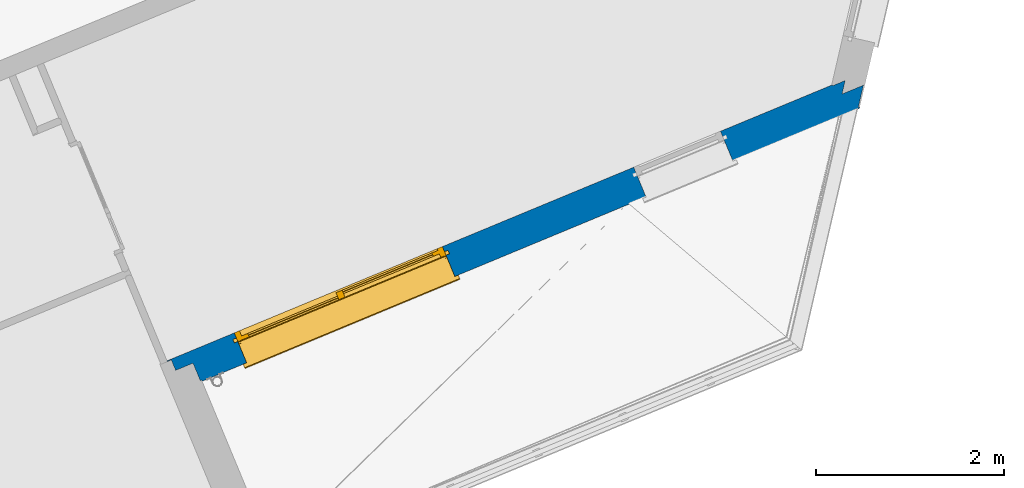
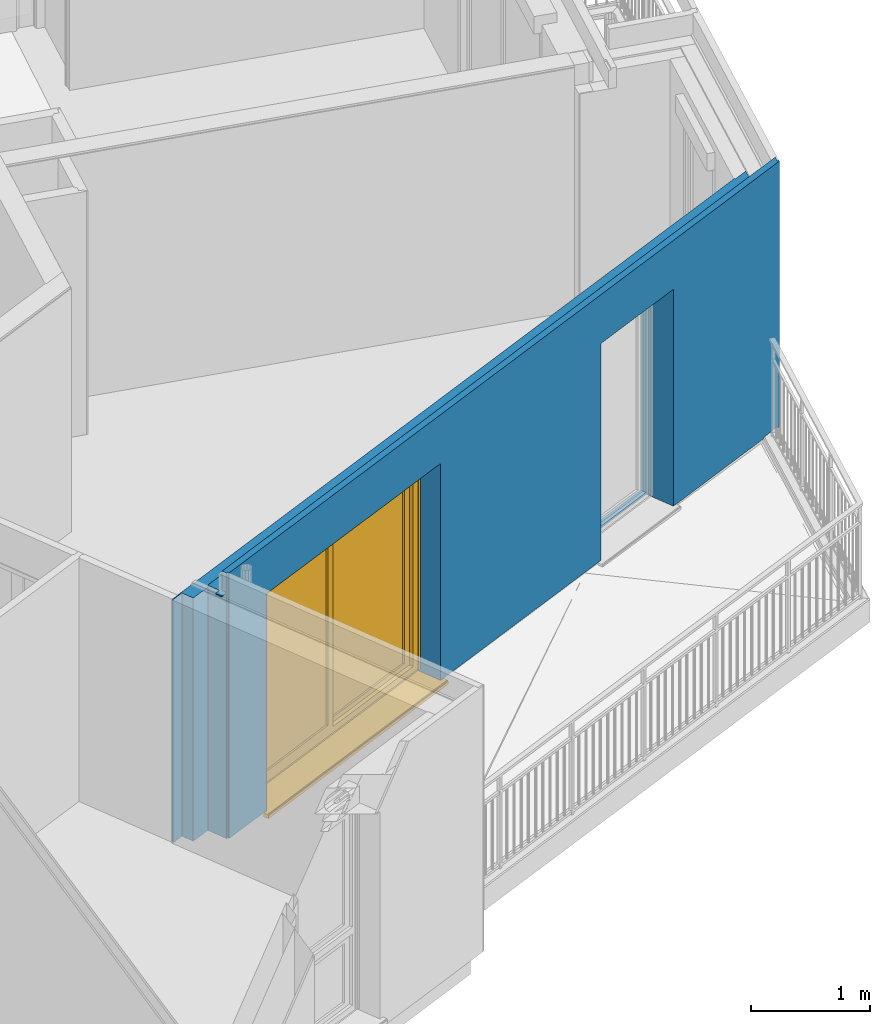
# One storey, part 12 of 91: 1 wall, 1 window, 2 openings.
"""IFC2X3 building model written with IfcOpenShell, lengths in metres."""

import ifcopenshell
import ifcopenshell.guid

model = None  # the IFC model being written
_history = None  # IfcOwnerHistory: only IFC2X3 demands one
_inside = {}  # id of a spatial element -> (the spatial element, [elements in it])
_under = {}  # id of a project, library or spatial element -> (it, [spatial elements below it])
_declared = {}  # id of a project -> (the project, [libraries it declares])
_typed = {}  # id of a type object -> (the type object, [elements of that type])
_made_of = {}  # id of a material, layer set ... -> (it, [elements and type objects made of it])


def new_model(schema):
    """Start an empty IFC model of exactly this schema.

    Asked for "IFC4X3", IfcOpenShell would pick the latest addendum, in which some entities
    have other attributes; the version numbers below select the first issue.
    IFC2X3 requires an IfcOwnerHistory on every rooted entity: one is made here for all.
    """
    global model, _history
    if schema == "IFC4X3":
        model = ifcopenshell.file(schema_version=(4, 3, 0, 0))
    else:
        model = ifcopenshell.file(schema=schema)
    _inside.clear()
    _under.clear()
    _declared.clear()
    _typed.clear()
    _made_of.clear()
    _history = None
    if model.schema == "IFC2X3":
        org = make("IfcOrganization", Name="unknown")
        user = make(
            "IfcPersonAndOrganization",
            ThePerson=make("IfcPerson", FamilyName="unknown"),
            TheOrganization=org,
        )
        app = make(
            "IfcApplication",
            ApplicationDeveloper=org,
            Version="unknown",
            ApplicationFullName="unknown",
            ApplicationIdentifier="unknown",
        )
        _history = make(
            "IfcOwnerHistory",
            OwningUser=user,
            OwningApplication=app,
            ChangeAction="ADDED",
            CreationDate=0,
        )
    return model


def make(cls, **values):
    """One entity of the class cls with the attributes given. An attribute that is None is left unset."""
    return model.create_entity(
        cls, **{name: value for name, value in values.items() if value is not None}
    )


def entity(cls, *values):
    """Any entity or typed value of the class cls, its attributes in the order of the schema. None: left unset."""
    e = model.create_entity(cls)
    for i, value in enumerate(values):
        if value is not None:
            e[i] = value
    return e


def rooted(cls, **values):
    """An entity with a GlobalId (a new one), such as an element, a storey or a relation."""
    return make(cls, GlobalId=ifcopenshell.guid.new(), OwnerHistory=_history, **values)


def si_unit(unit_type, name, prefix=None):
    """IfcSIUnit, for example si_unit("LENGTHUNIT", "METRE", prefix="MILLI")."""
    return make("IfcSIUnit", UnitType=unit_type, Prefix=prefix, Name=name)


def converted_unit(unit_type, name, factor, base, dimensions=None, offset=None):
    """IfcConversionBasedUnit, such as the inch: factor (a typed value) times the base unit."""
    return make(
        "IfcConversionBasedUnit"
        if offset is None
        else "IfcConversionBasedUnitWithOffset",
        ConversionOffset=offset,
        Dimensions=None
        if dimensions is None
        else entity("IfcDimensionalExponents", *dimensions),
        UnitType=unit_type,
        Name=name,
        ConversionFactor=make(
            "IfcMeasureWithUnit", ValueComponent=factor, UnitComponent=base
        ),
    )


def derived_unit(unit_type, elements):
    """IfcDerivedUnit: a product of units, each with its exponent."""
    return make(
        "IfcDerivedUnit",
        Elements=[
            make("IfcDerivedUnitElement", Unit=unit, Exponent=power)
            for unit, power in elements
        ],
        UnitType=unit_type,
    )


def money_unit(currency):
    """IfcMonetaryUnit."""
    return make("IfcMonetaryUnit", Currency=currency)


def assignment(units):
    """IfcUnitAssignment: the units of a project."""
    return None if units is None else make("IfcUnitAssignment", Units=units)


def point(xyz):
    """IfcCartesianPoint."""
    return None if xyz is None else make("IfcCartesianPoint", Coordinates=xyz)


def direction(xyz):
    """IfcDirection."""
    return None if xyz is None else make("IfcDirection", DirectionRatios=xyz)


def frame(location, z_axis=None, x_axis=None):
    """IfcAxis2Placement3D, a coordinate frame: its origin and axes. An axis left out is left unset."""
    return make(
        "IfcAxis2Placement3D",
        Location=point(location),
        Axis=direction(z_axis),
        RefDirection=direction(x_axis),
    )


def origin_with_axes():
    """The frame at (0, 0, 0) with the z axis (0, 0, 1) and the x axis (1, 0, 0) written out."""
    return frame((0.0, 0.0, 0.0), z_axis=(0.0, 0.0, 1.0), x_axis=(1.0, 0.0, 0.0))


def place(relative_to, where):
    """IfcLocalPlacement: puts the frame where relative to a parent placement (None: the world)."""
    return make(
        "IfcLocalPlacement", PlacementRelTo=relative_to, RelativePlacement=where
    )


def context(
    kind, dimensions, precision=None, world=None, true_north=None, identifier=None
):
    """IfcGeometricRepresentationContext, for example the 3D "Model" context."""
    return make(
        "IfcGeometricRepresentationContext",
        ContextIdentifier=identifier,
        ContextType=kind,
        CoordinateSpaceDimension=dimensions,
        Precision=precision,
        WorldCoordinateSystem=world,
        TrueNorth=true_north,
    )


def subcontext(parent, identifier, kind, view, scale=None):
    """IfcGeometricRepresentationSubContext, for example "Body" below "Model"."""
    return make(
        "IfcGeometricRepresentationSubContext",
        ContextIdentifier=identifier,
        ContextType=kind,
        ParentContext=parent,
        TargetScale=scale,
        TargetView=view,
    )


def project(units=None, contexts=None):
    """IfcProject with its units and contexts."""
    return rooted(
        "IfcProject",
        Name="project",
        RepresentationContexts=contexts,
        UnitsInContext=assignment(units),
    )


def spatial(cls, under=None, at=None, **own):
    """A site, building, storey or space (cls), placed at a placement, below another one or the project."""
    s = rooted(cls, ObjectPlacement=at, **own)
    if under is not None:
        _under.setdefault(under.id(), (under, []))[1].append(s)
    return s


def faces_of(points, faces, orient=None, outer=None):
    """IfcFace entities. A face is a list of loops; a loop is a list of indices into points, from 0.

    orient and outer hold one flag for each loop. By default every Orientation is true, the
    first loop of a face is its IfcFaceOuterBound and the others are IfcFaceBound.
    """
    made = []
    for i, loops in enumerate(faces):
        bounds = []
        for j, loop in enumerate(loops):
            is_outer = j == 0 if outer is None else outer[i][j]
            bounds.append(
                make(
                    "IfcFaceOuterBound" if is_outer else "IfcFaceBound",
                    Bound=make("IfcPolyLoop", Polygon=[points[k] for k in loop]),
                    Orientation=True if orient is None else orient[i][j],
                )
            )
        made.append(make("IfcFace", Bounds=bounds))
    return made


def open_shell(faces, orient=None, outer=None):
    """The faces of one IfcOpenShell. surface_model builds it on its shared points."""
    return ("IfcOpenShell", faces, orient, outer)


def faceted_brep(points, faces, orient=None, outer=None, voids=None):
    """IfcFacetedBrep: a solid bounded by flat faces; with voids (closed shells), ...WithVoids."""
    shared = [point(p) for p in points]
    hull = make("IfcClosedShell", CfsFaces=faces_of(shared, faces, orient, outer))
    if voids is None:
        return make("IfcFacetedBrep", Outer=hull)
    return make(
        "IfcFacetedBrepWithVoids",
        Outer=hull,
        Voids=[
            make(cls, CfsFaces=faces_of(shared, fs, o, b)) for cls, fs, o, b in voids
        ],
    )


def surface_model(cls, points, shells):
    """IfcFaceBasedSurfaceModel or IfcShellBasedSurfaceModel (cls): surfaces that need not close."""
    shared = [point(p) for p in points]
    made = [make(c, CfsFaces=faces_of(shared, fs, o, b)) for c, fs, o, b in shells]
    if cls == "IfcFaceBasedSurfaceModel":
        return make(cls, FbsmFaces=made)
    return make(cls, SbsmBoundary=made)


def shape(context_of_items, identifier, shape_type, items):
    """IfcShapeRepresentation: the items that make up one representation, for example the "Body"."""
    return make(
        "IfcShapeRepresentation",
        ContextOfItems=context_of_items,
        RepresentationIdentifier=identifier,
        RepresentationType=shape_type,
        Items=items,
    )


def source(mapping_origin, context_of_items, identifier, shape_type, items):
    """IfcRepresentationMap: a shape defined once, which mapped items show again and again."""
    return make(
        "IfcRepresentationMap",
        MappingOrigin=mapping_origin,
        MappedRepresentation=shape(context_of_items, identifier, shape_type, items),
    )


def transform(
    local_origin,
    x_axis=None,
    y_axis=None,
    z_axis=None,
    scale=None,
    scale2=None,
    scale3=None,
    uniform=True,
):
    """IfcCartesianTransformationOperator3D, or its non-uniform kind. x_axis, y_axis, z_axis: its Axis1, 2, 3."""
    if uniform:
        return make(
            "IfcCartesianTransformationOperator3D",
            Axis1=direction(x_axis),
            Axis2=direction(y_axis),
            LocalOrigin=point(local_origin),
            Scale=scale,
            Axis3=direction(z_axis),
        )
    return make(
        "IfcCartesianTransformationOperator3DnonUniform",
        Axis1=direction(x_axis),
        Axis2=direction(y_axis),
        LocalOrigin=point(local_origin),
        Scale=scale,
        Axis3=direction(z_axis),
        Scale2=scale2,
        Scale3=scale3,
    )


def mapped(mapping_source, mapping_target):
    """IfcMappedItem: shows the shape of a source again, moved by a transform."""
    return make(
        "IfcMappedItem", MappingSource=mapping_source, MappingTarget=mapping_target
    )


def material(Name=None, Category=None):
    """IfcMaterial."""
    return make("IfcMaterial", Name=Name, Category=Category)


def material_list(materials):
    """IfcMaterialList."""
    return make("IfcMaterialList", Materials=materials)


def made_of(thing, what):
    """Note that an element or type object is made of a material, layer set ...; save() writes the relation."""
    if what is not None:
        _made_of.setdefault(what.id(), (what, []))[1].append(thing)
    return thing


def type_object(cls, material=None, **own):
    """A type object (cls), such as IfcWallType, which elements share."""
    return made_of(rooted(cls, **own), material)


def element(
    cls,
    number,
    at=None,
    inside=None,
    cuts=None,
    type_object=None,
    material=None,
    context=None,
    identifier="Body",
    shape_type=None,
    held_by="IfcProductDefinitionShape",
    body=None,
    shapes=None,
    **own,
):
    """One element of the class cls, such as IfcWall. Its Tag is "e" and its number.

    at: its placement. inside: the storey or other place that contains it. cuts: it is an
    opening in that element (IfcRelVoidsElement). A single representation is given by context,
    identifier, shape_type and body (its items); several are given by shapes. held_by: the class
    of the entity that holds the representations. save() writes the other relations.
    """
    e = rooted(cls, Tag="e%d" % number, ObjectPlacement=at, **own)
    if body is not None:
        shapes = [shape(context, identifier, shape_type, body)]
    if shapes is not None:
        e.Representation = make(held_by, Representations=shapes)
    if inside is not None:
        _inside.setdefault(inside.id(), (inside, []))[1].append(e)
    if cuts is not None:
        rooted(
            "IfcRelVoidsElement", RelatingBuildingElement=cuts, RelatedOpeningElement=e
        )
    if type_object is not None:
        _typed.setdefault(type_object.id(), (type_object, []))[1].append(e)
    return made_of(e, material)


def fill(opening, filler):
    """IfcRelFillsElement: the door or window that sits in an opening."""
    return rooted(
        "IfcRelFillsElement",
        RelatingOpeningElement=opening,
        RelatedBuildingElement=filler,
    )


def aggregate(whole, parts):
    """IfcRelAggregates: a whole, such as a stair, and the parts it consists of."""
    return rooted("IfcRelAggregates", RelatingObject=whole, RelatedObjects=parts)


def save(model, path):
    """Write the relations noted so far, then the file.

    IfcRelAggregates (storeys below a building ...), IfcRelContainedInSpatialStructure (elements
    in a storey), IfcRelDefinesByType, IfcRelAssociatesMaterial and IfcRelDeclares: one each for
    every whole, place, type object, material and project.
    """
    for whole, parts in _under.values():
        aggregate(whole, parts)
    for where, things in _inside.values():
        rooted(
            "IfcRelContainedInSpatialStructure",
            RelatedElements=things,
            RelatingStructure=where,
        )
    for kind, things in _typed.values():
        rooted("IfcRelDefinesByType", RelatedObjects=things, RelatingType=kind)
    for what, things in _made_of.values():
        rooted("IfcRelAssociatesMaterial", RelatedObjects=things, RelatingMaterial=what)
    for by, libraries in _declared.values():
        rooted("IfcRelDeclares", RelatingContext=by, RelatedDefinitions=libraries)
    model.write(path)


model = new_model("IFC2X3")

# Units and contexts
model_context = context("Model", 3, precision=1e-05, world=origin_with_axes(), true_north=direction((0.0, 1.0)))
body_context = subcontext(model_context, "Body", "Model", "MODEL_VIEW")
ifc_project = project(units=[si_unit("LENGTHUNIT", "METRE"), si_unit("AREAUNIT", "SQUARE_METRE"), si_unit("VOLUMEUNIT", "CUBIC_METRE"), converted_unit("PLANEANGLEUNIT", "DEGREE", entity("IfcPlaneAngleMeasure", 0.0174532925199), si_unit("PLANEANGLEUNIT", "RADIAN"), dimensions=[0, 0, 0, 0, 0, 0, 0]), si_unit("SOLIDANGLEUNIT", "STERADIAN"), money_unit("EUR"), converted_unit("TIMEUNIT", "Year", entity("IfcTimeMeasure", 31556926.0), si_unit("TIMEUNIT", "SECOND"), dimensions=[0, 0, 1, 0, 0, 0, 0]), si_unit("MASSUNIT", "GRAM", prefix="KILO"), si_unit("THERMODYNAMICTEMPERATUREUNIT", "DEGREE_CELSIUS"), si_unit("LUMINOUSINTENSITYUNIT", "LUMEN"), si_unit("ENERGYUNIT", "JOULE", prefix="MEGA"), derived_unit("THERMALCONDUCTANCEUNIT", [(si_unit("POWERUNIT", "WATT"), 1), (si_unit("LENGTHUNIT", "METRE"), -1), (si_unit("THERMODYNAMICTEMPERATUREUNIT", "KELVIN"), -1)]), derived_unit("SPECIFICHEATCAPACITYUNIT", [(si_unit("ENERGYUNIT", "JOULE"), 1), (si_unit("MASSUNIT", "GRAM", prefix="KILO"), -1), (si_unit("THERMODYNAMICTEMPERATUREUNIT", "KELVIN"), -1)]), derived_unit("MASSDENSITYUNIT", [(si_unit("MASSUNIT", "GRAM", prefix="KILO"), 1), (si_unit("VOLUMEUNIT", "CUBIC_METRE"), -1)])], contexts=[model_context])

# Site, building, storey
site_placement = place(None, origin_with_axes())
site = spatial("IfcSite", under=ifc_project, at=site_placement, Name="Site", CompositionType="ELEMENT")
building_placement = place(site_placement, origin_with_axes())
building = spatial("IfcBuilding", under=site, at=building_placement, Name="Bâtiment", CompositionType="ELEMENT")
storey_placement = place(building_placement, frame((0.0, 0.0, 5.44), z_axis=(0.0, 0.0, 1.0), x_axis=(1.0, 0.0, 0.0)))
storey = spatial("IfcBuildingStorey", under=building, at=storey_placement, Name="R+2", CompositionType="ELEMENT", Elevation=5.44)

# Wall, openings, window
ifc_material_1 = material(Name="Finition int - Plaque de plâtre")
ifc_material_2 = material(Name="Isolation - Polystyrène extrudé")
ifc_material_3 = material(Name="Bloc ELITHERM")
ifc_material_4 = material(Name="Mortier")
ifc_material_5 = material(Name="Béton cellulaire")
ifc_material_6 = material(Name="Finition ext - Crépis")
ifc_material_list = material_list([ifc_material_1, ifc_material_2, ifc_material_3, ifc_material_4, ifc_material_5, ifc_material_6])
wall_type = type_object("IfcWallType", Name="Mur ALKERN + planelle 21 345 x 2720", PredefinedType="USERDEFINED")
wall_placement = place(storey_placement, frame((-14.6264330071, -23.0257640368, 0.0), z_axis=(0.0, 0.0, 1.0), x_axis=(0.923701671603, 0.383112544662, 0.0)))
wall = element("IfcWall", 1, at=wall_placement, inside=storey, type_object=wall_type, material=ifc_material_list, Name="Mue bloc ALKERN isolé", ObjectType="SOLIDWALL", context=body_context, shape_type="Brep", body=[
    faceted_brep([(-0.33499999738, 0.335000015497, 0.0), (7.40679732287, 0.335000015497, 0.0), (7.40679732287, 0.335000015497, 2.49), (-0.0829999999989, 0.335000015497, 2.49), (-0.33499999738, 0.335000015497, 2.49000000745), (0.514335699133, 0.335000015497, 2.22), (0.514335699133, 0.335000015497, 2.4), (2.91433569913, 0.335000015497, 2.4), (2.91433569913, 0.335000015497, 2.22), (2.91433569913, 0.335000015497, 0.02), (0.514335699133, 0.335000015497, 0.02), (5.12005784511, 0.335000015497, 2.22), (5.12005784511, 0.335000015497, 2.4), (6.12005784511, 0.335000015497, 2.4), (6.12005784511, 0.335000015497, 2.22), (6.12005784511, 0.335000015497, 0.02), (5.12005784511, 0.335000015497, 0.02), (-0.33499999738, 0.34499998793, 0.0), (7.41393608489, 0.34499998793, 0.0), (7.41393608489, 0.34499998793, 2.49), (-0.0829999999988, 0.34499998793, 2.49), (-0.0149999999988, 0.34499998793, 2.49), (-0.33499999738, 0.34499998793, 2.49000000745), (0.514335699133, 0.34499998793, 2.22), (0.514335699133, 0.34499998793, 2.4), (2.91433569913, 0.34499998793, 2.4), (2.91433569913, 0.34499998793, 2.22), (2.91433569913, 0.34499998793, 0.02), (0.514335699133, 0.34499998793, 0.02), (5.12005784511, 0.34499998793, 2.22), (5.12005784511, 0.34499998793, 2.4), (6.12005784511, 0.34499998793, 2.4), (6.12005784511, 0.34499998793, 2.22), (6.12005784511, 0.34499998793, 0.02), (5.12005784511, 0.34499998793, 0.02)], [[[0, 1, 2, 3, 4], [5, 6, 7, 8, 9, 10], [11, 12, 13, 14, 15, 16]], [[17, 18, 1, 0]], [[19, 2, 1, 18]], [[20, 3, 2, 19, 21]], [[4, 3, 20, 22]], [[17, 0, 4, 22]], [[23, 24, 6, 5]], [[24, 25, 7, 6]], [[25, 26, 8, 7]], [[27, 9, 8, 26]], [[28, 10, 9, 27]], [[10, 28, 23, 5]], [[12, 11, 29, 30]], [[13, 12, 30, 31]], [[14, 13, 31, 32]], [[14, 32, 33, 15]], [[15, 33, 34, 16]], [[29, 11, 16, 34]], [[21, 19, 18, 17, 22, 20], [24, 23, 28, 27, 26, 25], [30, 29, 34, 33, 32, 31]]]),
    faceted_brep([(6.12005784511, 0.245, 0.02), (6.12005784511, 0.215000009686, 0.02), (6.12005784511, 0.215, 2.22), (6.12005784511, 0.245, 2.22), (6.12005784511, 0.215000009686, 0.0), (6.12005784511, 0.286, 0.02), (6.12005784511, 0.286, 0.0), (5.12005784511, 0.215000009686, 0.0), (5.12005784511, 0.215000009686, 0.02), (5.12005784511, 0.215, 2.22), (5.12005784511, 0.215, 2.4), (6.12005784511, 0.215, 2.4), (7.46857198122, 0.215000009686, 0.0), (7.46857198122, 0.214999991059, 2.49), (-0.0829999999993, 0.215000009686, 2.49), (-0.214999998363, 0.215000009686, 2.49000000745), (-0.214999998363, 0.215000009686, 0.0), (0.514335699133, 0.215000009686, 0.0), (0.514335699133, 0.215000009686, 0.02), (0.514335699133, 0.215, 2.22), (0.514335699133, 0.215, 2.4), (2.91433569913, 0.215, 2.4), (2.91433569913, 0.215, 2.22), (2.91433569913, 0.215000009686, 0.02), (2.91433569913, 0.215000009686, 0.0), (6.12005784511, 0.335000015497, 2.4), (6.12005784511, 0.335000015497, 2.22), (6.12005784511, 0.335000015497, 0.02), (5.12005784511, 0.286, 0.02), (5.12005784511, 0.286, 0.0), (2.91433569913, 0.286, 0.0), (0.514335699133, 0.286, 0.0), (-0.214999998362, 0.335000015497, 0.0), (7.5542373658, 0.335000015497, 0.0), (5.12005784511, 0.245, 0.02), (5.12005784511, 0.245, 2.22), (5.12005784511, 0.335000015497, 2.22), (5.12005784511, 0.335000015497, 2.4), (7.5542373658, 0.335000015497, 2.49), (-0.0829999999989, 0.335000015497, 2.49), (-0.214999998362, 0.335000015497, 2.49000000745), (0.514335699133, 0.286, 0.02), (0.514335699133, 0.245, 0.02), (0.514335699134, 0.245, 2.22), (0.514335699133, 0.335000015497, 2.22), (0.514335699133, 0.335000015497, 2.4), (2.91433569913, 0.335000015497, 2.4), (2.91433569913, 0.335000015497, 2.22), (2.91433569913, 0.245, 2.22), (2.91433569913, 0.245, 0.02), (2.91433569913, 0.286, 0.02), (2.91433569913, 0.335000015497, 0.02), (0.514335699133, 0.335000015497, 0.02), (5.12005784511, 0.335000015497, 0.02)], [[[0, 1, 2, 3]], [[4, 1, 0, 5, 6]], [[7, 8, 9, 10, 11, 2, 1, 4, 12, 13, 14, 15, 16, 17, 18, 19, 20, 21, 22, 23, 24]], [[25, 26, 3, 2, 11]], [[5, 0, 3, 26, 27]], [[5, 28, 29, 6]], [[29, 7, 24, 30, 31, 17, 16, 32, 33, 12, 4, 6]], [[34, 8, 7, 29, 28]], [[8, 34, 35, 9]], [[35, 36, 37, 10, 9]], [[10, 37, 25, 11]], [[38, 13, 12, 33]], [[13, 38, 39, 14]], [[15, 14, 39, 40]], [[32, 16, 15, 40]], [[31, 41, 42, 18, 17]], [[18, 42, 43, 19]], [[20, 19, 43, 44, 45]], [[20, 45, 46, 21]], [[22, 21, 46, 47, 48]], [[49, 23, 22, 48]], [[50, 30, 24, 23, 49]], [[33, 32, 40, 39, 38], [51, 47, 46, 45, 44, 52], [27, 26, 25, 37, 36, 53]], [[28, 5, 27, 53]], [[50, 41, 31, 30]], [[34, 28, 53, 36, 35]], [[44, 43, 42, 41, 52]], [[47, 51, 50, 49, 48]], [[41, 50, 51, 52]]]),
    faceted_brep([(6.12005784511, 0.015, 0.02), (6.12005784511, 0.015, 0.0), (7.57152969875, 0.015, 0.0), (7.57152969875, 0.015, 2.50999999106), (-0.0149999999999, 0.015, 2.50999999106), (-0.0149999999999, 0.015, 0.0), (0.514335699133, 0.015, 0.0), (0.514335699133, 0.015, 0.02), (0.514335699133, 0.015, 2.22), (2.91433569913, 0.015, 2.22), (2.91433569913, 0.015, 0.02), (2.91433569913, 0.015, 0.0), (5.12005784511, 0.015, 0.0), (5.12005784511, 0.015, 0.02), (5.12005784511, 0.015, 2.22), (6.12005784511, 0.015, 2.22), (6.12005784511, 0.214999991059, 0.02), (6.12005784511, 0.214999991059, 0.0), (6.12005784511, 0.214999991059, 2.22), (7.71430532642, 0.214999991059, 0.0), (7.71430532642, 0.214999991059, 2.50999999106), (7.62007340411, 0.0829999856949, 2.50999999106), (-0.0149999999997, 0.0829999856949, 2.50999999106), (-0.0149999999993, 0.214999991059, 0.0), (-0.0149999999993, 0.214999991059, 2.50999999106), (0.514335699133, 0.214999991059, 0.0), (0.514335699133, 0.214999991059, 0.02), (0.514335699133, 0.214999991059, 2.22), (2.91433569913, 0.214999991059, 2.22), (2.91433569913, 0.214999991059, 0.02), (2.91433569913, 0.214999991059, 0.0), (5.12005784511, 0.214999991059, 0.0), (5.12005784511, 0.214999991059, 0.02), (5.12005784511, 0.214999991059, 2.22)], [[[0, 1, 2, 3, 4, 5, 6, 7, 8, 9, 10, 11, 12, 13, 14, 15]], [[16, 17, 1, 0, 15, 18]], [[1, 17, 19, 2]], [[3, 2, 19, 20, 21]], [[3, 21, 22, 4]], [[23, 5, 4, 22, 24]], [[5, 23, 25, 6]], [[7, 6, 25, 26, 27, 8]], [[28, 9, 8, 27]], [[29, 30, 11, 10, 9, 28]], [[31, 12, 11, 30]], [[13, 12, 31, 32, 33, 14]], [[14, 33, 18, 15]], [[17, 16, 18, 33, 32, 31, 30, 29, 28, 27, 26, 25, 23, 24, 20, 19]], [[21, 20, 24, 22]]]),
    faceted_brep([(7.57152969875, 0.015, 2.51999999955), (7.62007341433, 0.083, 2.51999999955), (-0.0829999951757, 0.083, 2.52), (-0.0829999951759, 0.015, 2.52), (7.62007341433, 0.083, 2.50999999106), (7.57152969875, 0.015, 2.50999999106), (-0.0829999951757, 0.083, 2.51), (-0.0829999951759, 0.015, 2.51)], [[[0, 1, 2, 3]], [[4, 1, 0, 5]], [[1, 4, 6, 2]], [[6, 7, 3, 2]], [[5, 0, 3, 7]], [[4, 5, 7, 6]]]),
    faceted_brep([(7.57152969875, 0.015, 2.72), (7.60579585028, 0.0629999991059, 2.72), (-0.0149999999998, 0.0629999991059, 2.72), (-0.015, 0.015, 2.72), (7.60579585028, 0.0629999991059, 2.51999999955), (7.57152969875, 0.015, 2.51999999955), (-0.0149999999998, 0.0629999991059, 2.51999999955), (-0.0149999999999, 0.015, 2.51999999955)], [[[0, 1, 2, 3]], [[4, 1, 0, 5]], [[1, 4, 6, 2]], [[7, 3, 2, 6]], [[5, 0, 3, 7]], [[4, 5, 7, 6]]]),
    faceted_brep([(6.12005784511, 0.0, 0.02), (6.12005784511, 0.0, 0.0), (7.36423482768, 0.0, 0.0), (7.3764975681, 0.0, 0.0106237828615), (7.54855877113, 0.0, 0.0193762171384), (7.56082151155, 0.0, 0.01), (7.56082151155, 0.0, 0.0), (7.57925150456, 0.0, 0.0), (7.57925150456, 0.0, 2.72), (0.0, 0.0, 2.72), (0.0, 0.0, 0.0), (0.514335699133, 0.0, 0.0), (0.514335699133, 0.0, 0.02), (0.514335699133, 0.0, 2.22), (2.91433569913, 0.0, 2.22), (2.91433569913, 0.0, 0.02), (2.91433569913, 0.0, 0.0), (5.12005784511, 0.0, 0.0), (5.12005784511, 0.0, 0.02), (5.12005784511, 0.0, 2.22), (6.12005784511, 0.0, 2.22), (6.12005784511, 0.0149999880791, 0.02), (6.12005784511, 0.0149999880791, 0.0), (7.37494299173, 0.0149999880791, 0.0), (7.38720573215, 0.0149999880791, 0.0106237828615), (7.55926693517, 0.0149999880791, 0.0193762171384), (7.57152967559, 0.0149999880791, 0.01), (7.57152967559, 0.0149999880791, 0.0), (7.5899596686, 0.0149999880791, 0.0), (7.5899596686, 0.0149999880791, 2.72), (0.0, 0.0149999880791, 2.72), (0.0, 0.0149999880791, 0.0), (0.514335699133, 0.0149999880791, 0.0), (0.514335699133, 0.0149999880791, 0.02), (0.514335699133, 0.0149999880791, 2.22), (2.91433569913, 0.0149999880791, 2.22), (2.91433569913, 0.0149999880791, 0.02), (2.91433569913, 0.0149999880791, 0.0), (5.12005784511, 0.0149999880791, 0.0), (5.12005784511, 0.0149999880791, 0.02), (5.12005784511, 0.0149999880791, 2.22), (6.12005784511, 0.0149999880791, 2.22)], [[[0, 1, 2, 3, 4, 5, 6, 7, 8, 9, 10, 11, 12, 13, 14, 15, 16, 17, 18, 19, 20]], [[1, 0, 21, 22]], [[1, 22, 23, 2]], [[2, 23, 24, 3]], [[3, 24, 25, 4]], [[4, 25, 26, 5]], [[5, 26, 27, 6]], [[7, 6, 27, 28]], [[8, 7, 28, 29]], [[29, 30, 9, 8]], [[10, 9, 30, 31]], [[10, 31, 32, 11]], [[11, 32, 33, 12]], [[34, 13, 12, 33]], [[35, 14, 13, 34]], [[14, 35, 36, 15]], [[36, 37, 16, 15]], [[38, 17, 16, 37]], [[39, 18, 17, 38]], [[18, 39, 40, 19]], [[19, 40, 41, 20]], [[21, 0, 20, 41]], [[22, 21, 41, 40, 39, 38, 37, 36, 35, 34, 33, 32, 31, 30, 29, 28, 27, 26, 25, 24, 23]]]),
])
opening_1_placement = place(wall_placement, frame((1.71433569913, 0.0, 0.02), z_axis=(0.0, 0.0, 1.0), x_axis=(1.0, 0.0, 0.0)))
opening_1 = element("IfcOpeningElement", 2, at=opening_1_placement, cuts=wall, Name="MEN 92", context=body_context, shape_type="Brep", body=[
    faceted_brep([(-1.2, 0.83499998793, 0.0), (1.2, 0.83499998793, 0.0), (1.2, 0.245, 0.0), (-1.2, 0.245, 0.0), (-1.2, 0.83499998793, 2.2), (1.2, 0.83499998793, 2.2), (1.2, 0.245, 2.2), (-1.2, 0.245, 2.2)], [[[0, 1, 2, 3]], [[0, 4, 5, 1]], [[1, 5, 6, 2]], [[3, 2, 6, 7]], [[4, 0, 3, 7]], [[5, 4, 7, 6]]]),
    faceted_brep([(-1.2, -0.34499998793, 0.0), (-1.2, -0.34499998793, 2.2), (-1.2, 0.245, 2.2), (-1.2, 0.245, 0.0), (1.2, -0.34499998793, 0.0), (1.2, -0.34499998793, 2.2), (1.2, 0.245, 2.2), (1.2, 0.245, 0.0)], [[[0, 1, 2, 3]], [[0, 4, 5, 1]], [[1, 5, 6, 2]], [[3, 2, 6, 7]], [[4, 0, 3, 7]], [[5, 4, 7, 6]]]),
    faceted_brep([(-1.2, -0.34499998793, 0.0), (-1.2, -0.34499998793, 2.2), (-1.2, 0.245, 2.2), (-1.2, 0.245, 0.0), (1.2, -0.34499998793, 0.0), (1.2, -0.34499998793, 2.2), (1.2, 0.245, 2.2), (1.2, 0.245, 0.0)], [[[0, 1, 2, 3]], [[0, 4, 5, 1]], [[1, 5, 6, 2]], [[3, 2, 6, 7]], [[4, 0, 3, 7]], [[5, 4, 7, 6]]]),
    faceted_brep([(-1.2, 0.80499998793, 2.2), (1.2, 0.80499998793, 2.2), (1.2, 0.215, 2.2), (-1.2, 0.215, 2.2), (-1.2, 0.80499998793, 2.38), (1.2, 0.80499998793, 2.38), (1.2, 0.215, 2.38), (-1.2, 0.215, 2.38)], [[[0, 1, 2, 3]], [[0, 4, 5, 1]], [[1, 5, 6, 2]], [[3, 2, 6, 7]], [[4, 0, 3, 7]], [[5, 4, 7, 6]]]),
    faceted_brep([(-1.2, -0.30399998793, 0.0), (1.2, -0.30399998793, 0.0), (1.2, 0.286, 0.0), (-1.2, 0.286, 0.0), (-1.2, -0.30399998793, -0.06), (1.2, -0.30399998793, -0.06), (1.2, 0.286, -0.06), (-1.2, 0.286, -0.06)], [[[0, 1, 2, 3]], [[0, 4, 5, 1]], [[1, 5, 6, 2]], [[3, 2, 6, 7]], [[4, 0, 3, 7]], [[5, 4, 7, 6]]]),
])
opening_2_placement = place(wall_placement, frame((5.62005784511, 0.0, 0.02), z_axis=(0.0, 0.0, 1.0), x_axis=(1.0, 0.0, 0.0)))
element("IfcOpeningElement", 3, at=opening_2_placement, cuts=wall, Name="MEN 93", context=body_context, shape_type="Brep", body=[
    faceted_brep([(-0.5, 0.83499998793, 0.0), (0.5, 0.83499998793, 0.0), (0.5, 0.245, 0.0), (-0.5, 0.245, 0.0), (-0.5, 0.83499998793, 2.2), (0.5, 0.83499998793, 2.2), (0.5, 0.245, 2.2), (-0.5, 0.245, 2.2)], [[[0, 1, 2, 3]], [[0, 4, 5, 1]], [[1, 5, 6, 2]], [[3, 2, 6, 7]], [[4, 0, 3, 7]], [[5, 4, 7, 6]]]),
    faceted_brep([(-0.5, -0.34499998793, 0.0), (-0.5, -0.34499998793, 2.2), (-0.5, 0.245, 2.2), (-0.5, 0.245, 0.0), (0.5, -0.34499998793, 0.0), (0.5, -0.34499998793, 2.2), (0.5, 0.245, 2.2), (0.5, 0.245, 0.0)], [[[0, 1, 2, 3]], [[0, 4, 5, 1]], [[1, 5, 6, 2]], [[3, 2, 6, 7]], [[4, 0, 3, 7]], [[5, 4, 7, 6]]]),
    faceted_brep([(-0.5, -0.34499998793, 0.0), (-0.5, -0.34499998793, 2.2), (-0.5, 0.245, 2.2), (-0.5, 0.245, 0.0), (0.5, -0.34499998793, 0.0), (0.5, -0.34499998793, 2.2), (0.5, 0.245, 2.2), (0.5, 0.245, 0.0)], [[[0, 1, 2, 3]], [[0, 4, 5, 1]], [[1, 5, 6, 2]], [[3, 2, 6, 7]], [[4, 0, 3, 7]], [[5, 4, 7, 6]]]),
    faceted_brep([(-0.5, 0.80499998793, 2.2), (0.5, 0.80499998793, 2.2), (0.5, 0.215, 2.2), (-0.5, 0.215, 2.2), (-0.5, 0.80499998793, 2.38), (0.5, 0.80499998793, 2.38), (0.5, 0.215, 2.38), (-0.5, 0.215, 2.38)], [[[0, 1, 2, 3]], [[0, 4, 5, 1]], [[1, 5, 6, 2]], [[3, 2, 6, 7]], [[4, 0, 3, 7]], [[5, 4, 7, 6]]]),
    faceted_brep([(-0.5, -0.30399998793, 0.0), (0.5, -0.30399998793, 0.0), (0.5, 0.286, 0.0), (-0.5, 0.286, 0.0), (-0.5, -0.30399998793, -0.06), (0.5, -0.30399998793, -0.06), (0.5, 0.286, -0.06), (-0.5, 0.286, -0.06)], [[[0, 1, 2, 3]], [[0, 4, 5, 1]], [[1, 5, 6, 2]], [[3, 2, 6, 7]], [[4, 0, 3, 7]], [[5, 4, 7, 6]]]),
])
window_style = type_object("IfcWindowStyle", Name="Baie générique 2017 v2", ConstructionType="NOTDEFINED", OperationType="NOTDEFINED", ParameterTakesPrecedence=False, Sizeable=False)
shared_shape = source(origin_with_axes(), body_context, "Body", "SurfaceModel", [
    faceted_brep([(-1.2, 0.1, 0.0), (1.2, 0.1, 0.0), (1.2, 0.0, 0.0), (-1.2, 0.0, 0.0), (-1.2, 0.1, 2.2), (1.2, 0.1, 2.2), (-1.14, 0.1, 0.05), (1.14, 0.1, 0.05), (1.14, 0.1, 2.15), (-1.14, 0.1, 2.15), (1.2, 0.0, 2.2), (-1.2, 0.0, 2.2), (-1.14, 0.0, 0.05), (-1.14, 0.0, 2.15), (1.14, 0.0, 2.15), (1.14, 0.0, 0.05)], [[[0, 1, 2, 3]], [[0, 4, 5, 1], [6, 7, 8, 9]], [[1, 5, 10, 2]], [[3, 2, 10, 11], [12, 13, 14, 15]], [[4, 0, 3, 11]], [[5, 4, 11, 10]], [[7, 6, 12, 15]], [[8, 7, 15, 14]], [[9, 8, 14, 13]], [[6, 9, 13, 12]]]),
    faceted_brep([(-1.14, 0.04, 0.05), (-1.14, 0.04, 2.15), (0.035, 0.04, 2.15), (0.035, 0.04, 0.05), (-0.035, 0.04, 2.08), (-1.07, 0.04, 2.08), (-1.07, 0.04, 0.1), (-0.035, 0.04, 0.1), (-1.14, 0.0, 2.15), (-1.14, 0.02, 2.15), (-1.14, 0.02, 0.05), (-1.14, 0.0, 0.05), (0.035, 0.0, 2.15), (0.035, 0.02, 2.15), (0.035, 0.0, 0.05), (0.035, 0.02, 0.05), (-0.035, 0.0, 2.08), (-1.07, 0.0, 2.08), (-1.07, 0.0, 0.1), (-0.035, 0.0, 0.1)], [[[0, 1, 2, 3], [4, 5, 6, 7]], [[8, 9, 1, 0, 10, 11]], [[12, 13, 2, 1, 9, 8]], [[13, 12, 14, 15, 3, 2]], [[15, 14, 11, 10, 0, 3]], [[5, 4, 16, 17]], [[18, 6, 5, 17]], [[19, 7, 6, 18]], [[4, 7, 19, 16]], [[12, 8, 11, 14], [19, 18, 17, 16]]]),
    surface_model("IfcShellBasedSurfaceModel", [(-1.14, 0.04, 0.05), (-1.14, 0.04, 2.15), (0.035, 0.04, 2.15), (0.035, 0.04, 0.05), (-1.07, 0.04, 0.1), (-0.035, 0.04, 0.1), (-0.035, 0.04, 2.08), (-1.07, 0.04, 2.08)], [open_shell([[[0, 1, 2, 3], [4, 5, 6, 7]]])]),
    surface_model("IfcShellBasedSurfaceModel", [(-1.14, 0.0, 0.05), (-1.14, 0.0, 2.15), (0.035, 0.0, 2.15), (0.035, 0.0, 0.05), (-1.07, 0.0, 0.1), (-0.035, 0.0, 0.1), (-0.035, 0.0, 2.08), (-1.07, 0.0, 2.08)], [open_shell([[[0, 1, 2, 3], [4, 5, 6, 7]]])]),
    faceted_brep([(-1.07, 0.0225, 0.1), (-0.035, 0.0225, 0.1), (-0.035, 0.0175, 0.1), (-1.07, 0.0175, 0.1), (-1.07, 0.0225, 2.08), (-0.035, 0.0225, 2.08), (-0.035, 0.0175, 2.08), (-1.07, 0.0175, 2.08)], [[[0, 1, 2, 3]], [[0, 4, 5, 1]], [[1, 5, 6, 2]], [[3, 2, 6, 7]], [[4, 0, 3, 7]], [[5, 4, 7, 6]]]),
    faceted_brep([(-0.035, 0.08, 0.05), (-0.035, 0.08, 2.15), (1.14, 0.08, 2.15), (1.14, 0.08, 0.05), (1.07, 0.08, 2.08), (0.035, 0.08, 2.08), (0.035, 0.08, 0.1), (1.07, 0.08, 0.1), (-0.035, 0.04, 2.15), (-0.035, 0.06, 2.15), (-0.035, 0.06, 0.05), (-0.035, 0.04, 0.05), (1.14, 0.04, 2.15), (1.14, 0.06, 2.15), (1.14, 0.04, 0.05), (1.14, 0.06, 0.05), (1.07, 0.04, 2.08), (0.035, 0.04, 2.08), (0.035, 0.04, 0.1), (1.07, 0.04, 0.1)], [[[0, 1, 2, 3], [4, 5, 6, 7]], [[8, 9, 1, 0, 10, 11]], [[12, 13, 2, 1, 9, 8]], [[13, 12, 14, 15, 3, 2]], [[15, 14, 11, 10, 0, 3]], [[5, 4, 16, 17]], [[18, 6, 5, 17]], [[19, 7, 6, 18]], [[4, 7, 19, 16]], [[12, 8, 11, 14], [19, 18, 17, 16]]]),
    surface_model("IfcShellBasedSurfaceModel", [(-0.035, 0.08, 0.05), (-0.035, 0.08, 2.15), (1.14, 0.08, 2.15), (1.14, 0.08, 0.05), (0.035, 0.08, 0.1), (1.07, 0.08, 0.1), (1.07, 0.08, 2.08), (0.035, 0.08, 2.08)], [open_shell([[[0, 1, 2, 3], [4, 5, 6, 7]]])]),
    surface_model("IfcShellBasedSurfaceModel", [(-0.035, 0.04, 0.05), (-0.035, 0.04, 2.15), (1.14, 0.04, 2.15), (1.14, 0.04, 0.05), (0.035, 0.04, 0.1), (1.07, 0.04, 0.1), (1.07, 0.04, 2.08), (0.035, 0.04, 2.08)], [open_shell([[[0, 1, 2, 3], [4, 5, 6, 7]]])]),
    faceted_brep([(0.035, 0.0625, 0.1), (1.07, 0.0625, 0.1), (1.07, 0.0575, 0.1), (0.035, 0.0575, 0.1), (0.035, 0.0625, 2.08), (1.07, 0.0625, 2.08), (1.07, 0.0575, 2.08), (0.035, 0.0575, 2.08)], [[[0, 1, 2, 3]], [[0, 4, 5, 1]], [[1, 5, 6, 2]], [[3, 2, 6, 7]], [[4, 0, 3, 7]], [[5, 4, 7, 6]]]),
    faceted_brep([(-1.2, -0.03, 0.0), (-1.175, -0.03, 0.0), (-1.175, -0.03, 2.2), (-1.2, -0.03, 2.2), (-1.2, -0.002, 0.0), (-1.175, -0.002, 0.0), (-1.175, -0.004, 0.0), (-1.198, -0.004, 0.0), (-1.198, -0.028, 0.0), (-1.175, -0.028, 0.0), (-1.175, -0.028, 2.2), (-1.198, -0.028, 2.2), (-1.198, -0.004, 2.2), (-1.175, -0.004, 2.2), (-1.175, -0.002, 2.2), (-1.2, -0.002, 2.2)], [[[0, 1, 2, 3]], [[0, 4, 5, 6, 7, 8, 9, 1]], [[1, 9, 10, 2]], [[3, 2, 10, 11, 12, 13, 14, 15]], [[4, 0, 3, 15]], [[5, 4, 15, 14]], [[6, 5, 14, 13]], [[7, 6, 13, 12]], [[8, 7, 12, 11]], [[9, 8, 11, 10]]]),
    faceted_brep([(1.2, -0.03, 0.0), (1.2, -0.03, 2.2), (1.175, -0.03, 2.2), (1.175, -0.03, 0.0), (1.2, -0.002, 0.0), (1.2, -0.002, 2.2), (1.175, -0.002, 2.2), (1.175, -0.004, 2.2), (1.198, -0.004, 2.2), (1.198, -0.028, 2.2), (1.175, -0.028, 2.2), (1.175, -0.028, 0.0), (1.198, -0.028, 0.0), (1.198, -0.004, 0.0), (1.175, -0.004, 0.0), (1.175, -0.002, 0.0)], [[[0, 1, 2, 3]], [[4, 5, 1, 0]], [[1, 5, 6, 7, 8, 9, 10, 2]], [[3, 2, 10, 11]], [[0, 3, 11, 12, 13, 14, 15, 4]], [[15, 6, 5, 4]], [[14, 7, 6, 15]], [[13, 8, 7, 14]], [[12, 9, 8, 13]], [[11, 10, 9, 12]]]),
    faceted_brep([(1.198, -0.028, 2.2), (-1.198, -0.028, 2.2), (-1.198, -0.028, 2.378), (1.198, -0.028, 2.378), (1.198, -0.03, 2.2), (-1.198, -0.03, 2.2), (-1.198, -0.03, 2.38), (-1.198, 0.17, 2.38), (-1.198, 0.17, 2.2), (-1.198, 0.168, 2.2), (-1.198, 0.168, 2.378), (1.198, 0.168, 2.378), (1.198, 0.168, 2.2), (1.198, 0.17, 2.2), (1.198, 0.17, 2.38), (1.198, -0.03, 2.38)], [[[0, 1, 2, 3]], [[4, 5, 1, 0]], [[1, 5, 6, 7, 8, 9, 10, 2]], [[3, 2, 10, 11]], [[0, 3, 11, 12, 13, 14, 15, 4]], [[15, 6, 5, 4]], [[14, 7, 6, 15]], [[13, 8, 7, 14]], [[12, 9, 8, 13]], [[11, 10, 9, 12]]]),
    faceted_brep([(1.198, 0.0724697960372, 2.27436337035), (1.198, 0.08, 2.29), (1.198, 0.0724697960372, 2.30563662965), (1.198, 0.0555495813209, 2.30949855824), (1.198, 0.041980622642, 2.29867767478), (1.198, 0.041980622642, 2.28132232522), (1.198, 0.0555495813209, 2.27050144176), (-1.198, 0.0724697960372, 2.27436337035), (-1.198, 0.08, 2.29), (-1.198, 0.0724697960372, 2.30563662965), (-1.198, 0.0555495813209, 2.30949855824), (-1.198, 0.041980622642, 2.29867767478), (-1.198, 0.041980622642, 2.28132232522), (-1.198, 0.0555495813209, 2.27050144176)], [[[0, 1, 2, 3, 4, 5, 6]], [[0, 7, 8, 1]], [[1, 8, 9, 2]], [[2, 9, 10, 3]], [[3, 10, 11, 4]], [[4, 11, 12, 5]], [[5, 12, 13, 6]], [[6, 13, 7, 0]], [[7, 13, 12, 11, 10, 9, 8]]]),
    faceted_brep([(1.188, 0.130275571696, 2.25615706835), (1.188, 0.138, 2.29), (1.188, 0.130275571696, 2.32384293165), (1.188, 0.108632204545, 2.35098285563), (1.188, 0.0773566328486, 2.36604437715), (1.188, 0.0426433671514, 2.36604437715), (1.188, 0.011367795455, 2.35098285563), (1.188, -0.0102755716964, 2.32384293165), (1.188, -0.018, 2.29), (1.188, -0.0102755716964, 2.25615706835), (1.188, 0.011367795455, 2.22901714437), (1.188, 0.0426433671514, 2.21395562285), (1.188, 0.0773566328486, 2.21395562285), (1.188, 0.108632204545, 2.22901714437), (-1.188, 0.130275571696, 2.25615706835), (-1.188, 0.138, 2.29), (-1.188, 0.130275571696, 2.32384293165), (-1.188, 0.108632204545, 2.35098285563), (-1.188, 0.0773566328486, 2.36604437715), (-1.188, 0.0426433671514, 2.36604437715), (-1.188, 0.011367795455, 2.35098285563), (-1.188, -0.0102755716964, 2.32384293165), (-1.188, -0.018, 2.29), (-1.188, -0.0102755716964, 2.25615706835), (-1.188, 0.011367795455, 2.22901714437), (-1.188, 0.0426433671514, 2.21395562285), (-1.188, 0.0773566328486, 2.21395562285), (-1.188, 0.108632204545, 2.22901714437)], [[[0, 1, 2, 3, 4, 5, 6, 7, 8, 9, 10, 11, 12, 13]], [[0, 14, 15, 1]], [[1, 15, 16, 2]], [[2, 16, 17, 3]], [[3, 17, 18, 4]], [[4, 18, 19, 5]], [[5, 19, 20, 6]], [[6, 20, 21, 7]], [[7, 21, 22, 8]], [[8, 22, 23, 9]], [[9, 23, 24, 10]], [[10, 24, 25, 11]], [[11, 25, 26, 12]], [[12, 26, 27, 13]], [[13, 27, 14, 0]], [[14, 27, 26, 25, 24, 23, 22, 21, 20, 19, 18, 17, 16, 15]]]),
    faceted_brep([(1.2, 0.17, 2.2), (1.198, 0.17, 2.2), (1.198, 0.17, 2.38), (1.2, 0.17, 2.38), (1.2, -0.03, 2.2), (1.198, -0.03, 2.2), (1.198, -0.03, 2.38), (1.2, -0.03, 2.38)], [[[0, 1, 2, 3]], [[4, 5, 1, 0]], [[1, 5, 6, 2]], [[3, 2, 6, 7]], [[0, 3, 7, 4]], [[7, 6, 5, 4]]]),
    faceted_brep([(-1.198, 0.17, 2.2), (-1.2, 0.17, 2.2), (-1.2, 0.17, 2.38), (-1.198, 0.17, 2.38), (-1.198, -0.03, 2.2), (-1.2, -0.03, 2.2), (-1.2, -0.03, 2.38), (-1.198, -0.03, 2.38)], [[[0, 1, 2, 3]], [[4, 5, 1, 0]], [[1, 5, 6, 2]], [[3, 2, 6, 7]], [[0, 3, 7, 4]], [[7, 6, 5, 4]]]),
    faceted_brep([(1.198, -0.004, 2.2), (-1.198, -0.004, 2.2), (-1.198, 0.168, 2.2), (1.198, 0.168, 2.2), (1.198, -0.004, 2.202), (-1.198, -0.004, 2.202), (-1.198, 0.168, 2.202), (1.198, 0.168, 2.202)], [[[0, 1, 2, 3]], [[4, 5, 1, 0]], [[1, 5, 6, 2]], [[3, 2, 6, 7]], [[0, 3, 7, 4]], [[7, 6, 5, 4]]]),
    faceted_brep([(-1.188, -0.006, 2.2), (-1.188, -0.006, 2.29), (1.188, -0.006, 2.29), (1.188, -0.006, 2.2), (-1.188, -0.026, 2.2), (-1.188, -0.026, 2.29), (1.188, -0.026, 2.29), (1.188, -0.026, 2.2)], [[[0, 1, 2, 3]], [[1, 0, 4, 5]], [[2, 1, 5, 6]], [[3, 2, 6, 7]], [[4, 0, 3, 7]], [[5, 4, 7, 6]]]),
    faceted_brep([(1.2, -0.00167949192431, -0.01), (1.2, 0.0, -0.00373205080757), (1.24, 0.0, -0.00373205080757), (1.24, 0.001, 0.0), (-1.24, 0.001, 0.0), (-1.24, 0.0, -0.00373205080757), (-1.2, 0.0, -0.00373205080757), (-1.2, -0.00167949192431, -0.01), (1.2, -0.009, -0.0173205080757), (1.2, -0.019, -0.02), (1.2, -0.245, -0.02), (1.2, -0.245, -0.06), (1.2, 0.0, -0.06), (1.24, 0.0, -0.06), (1.24, 0.041, -0.06), (1.24, 0.041, 0.0), (-1.24, 0.041, 0.0), (-1.24, 0.041, -0.06), (-1.24, 0.0, -0.06), (-1.2, 0.0, -0.06), (-1.2, -0.245, -0.02), (-1.2, -0.019, -0.02), (-1.2, -0.009, -0.0173205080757), (-1.2, -0.245, -0.06), (-1.24, -0.245, -0.02), (-1.24, -0.285, -0.02), (1.24, -0.285, -0.02), (1.24, -0.245, -0.02), (1.24, -0.245, -0.06), (1.24, -0.275, -0.06), (-1.24, -0.275, -0.06), (-1.24, -0.245, -0.06), (-1.24, -0.295, -0.03), (-1.24, -0.292071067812, -0.0229289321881), (-1.24, -0.275, -0.05), (-1.24, -0.285, -0.05), (-1.24, -0.285, -0.06), (-1.24, -0.295, -0.06), (1.24, -0.292071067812, -0.0229289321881), (1.24, -0.295, -0.03), (1.24, -0.295, -0.06), (1.24, -0.285, -0.06), (1.24, -0.285, -0.05), (1.24, -0.275, -0.05)], [[[0, 1, 2, 3, 4, 5, 6, 7]], [[1, 0, 8, 9, 10, 11, 12]], [[13, 2, 1, 12]], [[2, 13, 14, 15, 3]], [[16, 4, 3, 15]], [[4, 16, 17, 18, 5]], [[5, 18, 19, 6]], [[20, 21, 22, 7, 6, 19, 23]], [[8, 0, 7, 22]], [[9, 8, 22, 21]], [[10, 9, 21, 20, 24, 25, 26, 27]], [[10, 27, 28, 11]], [[11, 28, 29, 30, 31, 23, 19, 18, 17, 14, 13, 12]], [[17, 16, 15, 14]], [[20, 23, 31, 24]], [[32, 33, 25, 24, 31, 30, 34, 35, 36, 37]], [[25, 33, 38, 26]], [[28, 27, 26, 38, 39, 40, 41, 42, 43, 29]], [[34, 30, 29, 43]], [[33, 32, 39, 38]], [[35, 34, 43, 42]], [[36, 35, 42, 41]], [[37, 36, 41, 40]], [[32, 37, 40, 39]]]),
])
window_placement = place(opening_1_placement, frame((-1.2, 0.0, 0.0), z_axis=(0.0, 0.0, 1.0), x_axis=(1.0, 0.0, 0.0)))
window = element("IfcWindow", 4, at=window_placement, inside=storey, type_object=window_style, Name="MEN 92", ObjectType="WINDOW", OverallHeight=2.2, OverallWidth=2.4, context=body_context, shape_type="MappedRepresentation", body=[
    mapped(shared_shape, transform((1.2, 0.245, 0.0))),
])
fill(opening_1, window)

save(model, "model.ifc")
